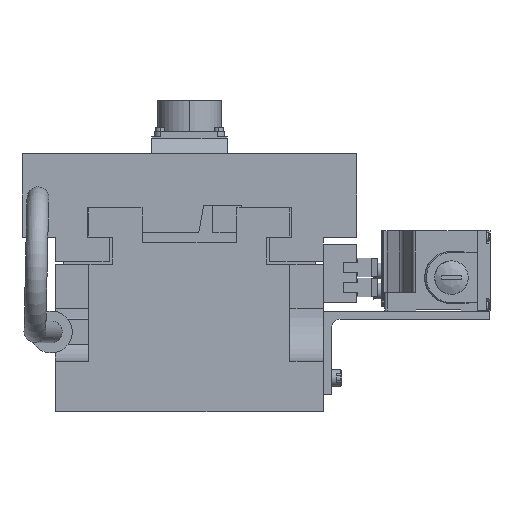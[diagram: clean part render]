
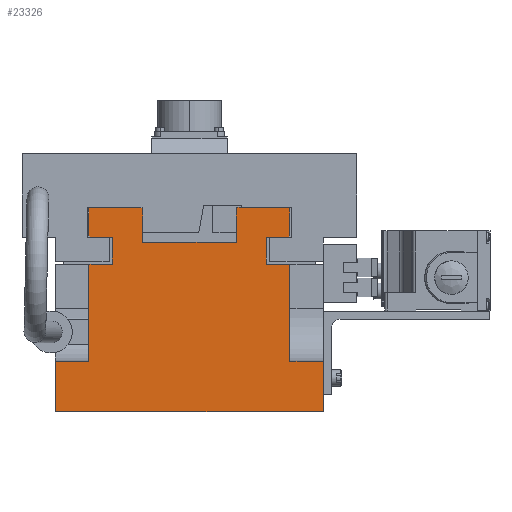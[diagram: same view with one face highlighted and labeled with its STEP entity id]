
A CAD part, front view. The second image highlights one B-rep face of the part: STEP entity #23326.
In plain terms, the highlighted planar face has unit normal (0, -1, 0).
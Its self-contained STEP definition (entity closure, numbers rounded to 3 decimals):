
#19888=CARTESIAN_POINT('',(40.605,-501.707,46.715));
#19889=VERTEX_POINT('',#19888);
#19896=CARTESIAN_POINT('',(40.605,-501.707,66.715));
#19897=VERTEX_POINT('',#19896);
#19898=CARTESIAN_POINT('',(40.605,-501.707,46.715));
#19899=DIRECTION('',(0.0,0.0,1.0));
#19900=VECTOR('',#19899,20.0);
#19901=LINE('',#19898,#19900);
#19902=EDGE_CURVE('',#19889,#19897,#19901,.T.);
#20224=CARTESIAN_POINT('',(-15.395,-501.707,66.715));
#20225=VERTEX_POINT('',#20224);
#20232=CARTESIAN_POINT('',(-15.395,-501.707,46.715));
#20233=VERTEX_POINT('',#20232);
#20234=CARTESIAN_POINT('',(-15.395,-501.707,66.715));
#20235=DIRECTION('',(0.0,0.0,-1.0));
#20236=VECTOR('',#20235,20.0);
#20237=LINE('',#20234,#20236);
#20238=EDGE_CURVE('',#20225,#20233,#20237,.T.);
#22440=CARTESIAN_POINT('',(-46.395,-501.707,67.715));
#22441=VERTEX_POINT('',#22440);
#22448=CARTESIAN_POINT('',(-16.395,-501.707,67.715));
#22449=VERTEX_POINT('',#22448);
#22450=CARTESIAN_POINT('',(-46.395,-501.707,67.715));
#22451=DIRECTION('',(1.0,0.0,0.0));
#22452=VECTOR('',#22451,30.);
#22453=LINE('',#22450,#22452);
#22454=EDGE_CURVE('',#22441,#22449,#22453,.T.);
#22896=CARTESIAN_POINT('',(-47.395,-501.707,-24.285));
#22897=VERTEX_POINT('',#22896);
#22904=CARTESIAN_POINT('',(-47.395,-501.707,33.715));
#22905=VERTEX_POINT('',#22904);
#22906=CARTESIAN_POINT('',(-47.395,-501.707,33.715));
#22907=DIRECTION('',(0.0,0.0,-1.0));
#22908=VECTOR('',#22907,58.);
#22909=LINE('',#22906,#22908);
#22910=EDGE_CURVE('',#22905,#22897,#22909,.T.);
#22941=CARTESIAN_POINT('',(-67.395,-501.707,-24.285));
#22942=VERTEX_POINT('',#22941);
#22949=CARTESIAN_POINT('',(-47.395,-501.707,-24.285));
#22950=DIRECTION('',(-1.0,0.0,0.0));
#22951=VECTOR('',#22950,20.);
#22952=LINE('',#22949,#22951);
#22953=EDGE_CURVE('',#22897,#22942,#22952,.T.);
#23016=CARTESIAN_POINT('',(72.605,-501.707,-24.285));
#23017=VERTEX_POINT('',#23016);
#23024=CARTESIAN_POINT('',(92.605,-501.707,-24.285));
#23025=VERTEX_POINT('',#23024);
#23026=CARTESIAN_POINT('',(92.605,-501.707,-24.285));
#23027=DIRECTION('',(-1.0,0.0,0.0));
#23028=VECTOR('',#23027,20.);
#23029=LINE('',#23026,#23028);
#23030=EDGE_CURVE('',#23025,#23017,#23029,.T.);
#23095=CARTESIAN_POINT('',(72.605,-501.707,33.715));
#23096=VERTEX_POINT('',#23095);
#23103=CARTESIAN_POINT('',(72.605,-501.707,-24.285));
#23104=DIRECTION('',(0.0,0.0,1.0));
#23105=VECTOR('',#23104,58.);
#23106=LINE('',#23103,#23105);
#23107=EDGE_CURVE('',#23017,#23096,#23106,.T.);
#23160=CARTESIAN_POINT('',(-67.395,-501.707,-54.285));
#23161=VERTEX_POINT('',#23160);
#23168=CARTESIAN_POINT('',(-67.395,-501.707,-54.285));
#23169=DIRECTION('',(0.0,0.0,1.0));
#23170=VECTOR('',#23169,30.);
#23171=LINE('',#23168,#23170);
#23172=EDGE_CURVE('',#23161,#22942,#23171,.T.);
#23177=CARTESIAN_POINT('',(12.605,-501.707,9.049));
#23178=DIRECTION('',(0.0,-1.0,0.0));
#23179=DIRECTION('',(1.0,0.0,0.0));
#23180=AXIS2_PLACEMENT_3D('',#23177,#23178,#23179);
#23181=PLANE('',#23180);
#23182=ORIENTED_EDGE('',*,*,#22910,.T.);
#23183=ORIENTED_EDGE('',*,*,#22953,.T.);
#23184=ORIENTED_EDGE('',*,*,#23172,.F.);
#23185=CARTESIAN_POINT('',(92.605,-501.707,-54.285));
#23186=VERTEX_POINT('',#23185);
#23187=CARTESIAN_POINT('',(92.605,-501.707,-54.285));
#23188=DIRECTION('',(-1.0,0.0,0.0));
#23189=VECTOR('',#23188,160.0);
#23190=LINE('',#23187,#23189);
#23191=EDGE_CURVE('',#23186,#23161,#23190,.T.);
#23192=ORIENTED_EDGE('',*,*,#23191,.F.);
#23193=CARTESIAN_POINT('',(92.605,-501.707,-24.285));
#23194=DIRECTION('',(0.0,0.0,-1.0));
#23195=VECTOR('',#23194,30.);
#23196=LINE('',#23193,#23195);
#23197=EDGE_CURVE('',#23025,#23186,#23196,.T.);
#23198=ORIENTED_EDGE('',*,*,#23197,.F.);
#23199=ORIENTED_EDGE('',*,*,#23030,.T.);
#23200=ORIENTED_EDGE('',*,*,#23107,.T.);
#23201=CARTESIAN_POINT('',(58.605,-501.707,33.715));
#23202=VERTEX_POINT('',#23201);
#23203=CARTESIAN_POINT('',(58.605,-501.707,33.715));
#23204=DIRECTION('',(1.0,0.0,0.0));
#23205=VECTOR('',#23204,14.);
#23206=LINE('',#23203,#23205);
#23207=EDGE_CURVE('',#23202,#23096,#23206,.T.);
#23208=ORIENTED_EDGE('',*,*,#23207,.F.);
#23209=CARTESIAN_POINT('',(58.605,-501.707,49.715));
#23210=VERTEX_POINT('',#23209);
#23211=CARTESIAN_POINT('',(58.605,-501.707,49.715));
#23212=DIRECTION('',(0.0,0.0,-1.0));
#23213=VECTOR('',#23212,16.);
#23214=LINE('',#23211,#23213);
#23215=EDGE_CURVE('',#23210,#23202,#23214,.T.);
#23216=ORIENTED_EDGE('',*,*,#23215,.F.);
#23217=CARTESIAN_POINT('',(71.605,-501.707,49.715));
#23218=VERTEX_POINT('',#23217);
#23219=CARTESIAN_POINT('',(71.605,-501.707,49.715));
#23220=DIRECTION('',(-1.0,0.0,0.0));
#23221=VECTOR('',#23220,13.);
#23222=LINE('',#23219,#23221);
#23223=EDGE_CURVE('',#23218,#23210,#23222,.T.);
#23224=ORIENTED_EDGE('',*,*,#23223,.F.);
#23225=CARTESIAN_POINT('',(72.605,-501.707,50.715));
#23226=VERTEX_POINT('',#23225);
#23227=CARTESIAN_POINT('',(72.605,-501.707,50.715));
#23228=DIRECTION('',(-0.707,0.0,-0.707));
#23229=VECTOR('',#23228,1.414);
#23230=LINE('',#23227,#23229);
#23231=EDGE_CURVE('',#23226,#23218,#23230,.T.);
#23232=ORIENTED_EDGE('',*,*,#23231,.F.);
#23233=CARTESIAN_POINT('',(72.605,-501.707,66.715));
#23234=VERTEX_POINT('',#23233);
#23235=CARTESIAN_POINT('',(72.605,-501.707,66.715));
#23236=DIRECTION('',(0.0,0.0,-1.0));
#23237=VECTOR('',#23236,16.);
#23238=LINE('',#23235,#23237);
#23239=EDGE_CURVE('',#23234,#23226,#23238,.T.);
#23240=ORIENTED_EDGE('',*,*,#23239,.F.);
#23241=CARTESIAN_POINT('',(71.605,-501.707,67.715));
#23242=VERTEX_POINT('',#23241);
#23243=CARTESIAN_POINT('',(71.605,-501.707,67.715));
#23244=DIRECTION('',(0.707,0.0,-0.707));
#23245=VECTOR('',#23244,1.414);
#23246=LINE('',#23243,#23245);
#23247=EDGE_CURVE('',#23242,#23234,#23246,.T.);
#23248=ORIENTED_EDGE('',*,*,#23247,.F.);
#23249=CARTESIAN_POINT('',(41.605,-501.707,67.715));
#23250=VERTEX_POINT('',#23249);
#23251=CARTESIAN_POINT('',(41.605,-501.707,67.715));
#23252=DIRECTION('',(1.0,0.0,0.0));
#23253=VECTOR('',#23252,30.0);
#23254=LINE('',#23251,#23253);
#23255=EDGE_CURVE('',#23250,#23242,#23254,.T.);
#23256=ORIENTED_EDGE('',*,*,#23255,.F.);
#23257=CARTESIAN_POINT('',(40.605,-501.707,66.715));
#23258=DIRECTION('',(0.707,0.0,0.707));
#23259=VECTOR('',#23258,1.414);
#23260=LINE('',#23257,#23259);
#23261=EDGE_CURVE('',#19897,#23250,#23260,.T.);
#23262=ORIENTED_EDGE('',*,*,#23261,.F.);
#23263=ORIENTED_EDGE('',*,*,#19902,.F.);
#23264=CARTESIAN_POINT('',(-15.395,-501.707,46.715));
#23265=DIRECTION('',(1.0,0.0,0.0));
#23266=VECTOR('',#23265,56.0);
#23267=LINE('',#23264,#23266);
#23268=EDGE_CURVE('',#20233,#19889,#23267,.T.);
#23269=ORIENTED_EDGE('',*,*,#23268,.F.);
#23270=ORIENTED_EDGE('',*,*,#20238,.F.);
#23271=CARTESIAN_POINT('',(-16.395,-501.707,67.715));
#23272=DIRECTION('',(0.707,0.0,-0.707));
#23273=VECTOR('',#23272,1.414);
#23274=LINE('',#23271,#23273);
#23275=EDGE_CURVE('',#22449,#20225,#23274,.T.);
#23276=ORIENTED_EDGE('',*,*,#23275,.F.);
#23277=ORIENTED_EDGE('',*,*,#22454,.F.);
#23278=CARTESIAN_POINT('',(-47.395,-501.707,66.715));
#23279=VERTEX_POINT('',#23278);
#23280=CARTESIAN_POINT('',(-47.395,-501.707,66.715));
#23281=DIRECTION('',(0.707,0.0,0.707));
#23282=VECTOR('',#23281,1.414);
#23283=LINE('',#23280,#23282);
#23284=EDGE_CURVE('',#23279,#22441,#23283,.T.);
#23285=ORIENTED_EDGE('',*,*,#23284,.F.);
#23286=CARTESIAN_POINT('',(-47.395,-501.707,50.715));
#23287=VERTEX_POINT('',#23286);
#23288=CARTESIAN_POINT('',(-47.395,-501.707,50.715));
#23289=DIRECTION('',(0.0,0.0,1.0));
#23290=VECTOR('',#23289,16.);
#23291=LINE('',#23288,#23290);
#23292=EDGE_CURVE('',#23287,#23279,#23291,.T.);
#23293=ORIENTED_EDGE('',*,*,#23292,.F.);
#23294=CARTESIAN_POINT('',(-46.395,-501.707,49.715));
#23295=VERTEX_POINT('',#23294);
#23296=CARTESIAN_POINT('',(-46.395,-501.707,49.715));
#23297=DIRECTION('',(-0.707,0.0,0.707));
#23298=VECTOR('',#23297,1.414);
#23299=LINE('',#23296,#23298);
#23300=EDGE_CURVE('',#23295,#23287,#23299,.T.);
#23301=ORIENTED_EDGE('',*,*,#23300,.F.);
#23302=CARTESIAN_POINT('',(-33.395,-501.707,49.715));
#23303=VERTEX_POINT('',#23302);
#23304=CARTESIAN_POINT('',(-33.395,-501.707,49.715));
#23305=DIRECTION('',(-1.0,0.0,0.0));
#23306=VECTOR('',#23305,13.);
#23307=LINE('',#23304,#23306);
#23308=EDGE_CURVE('',#23303,#23295,#23307,.T.);
#23309=ORIENTED_EDGE('',*,*,#23308,.F.);
#23310=CARTESIAN_POINT('',(-33.395,-501.707,33.715));
#23311=VERTEX_POINT('',#23310);
#23312=CARTESIAN_POINT('',(-33.395,-501.707,33.715));
#23313=DIRECTION('',(0.0,0.0,1.0));
#23314=VECTOR('',#23313,16.);
#23315=LINE('',#23312,#23314);
#23316=EDGE_CURVE('',#23311,#23303,#23315,.T.);
#23317=ORIENTED_EDGE('',*,*,#23316,.F.);
#23318=CARTESIAN_POINT('',(-47.395,-501.707,33.715));
#23319=DIRECTION('',(1.0,0.0,0.0));
#23320=VECTOR('',#23319,14.);
#23321=LINE('',#23318,#23320);
#23322=EDGE_CURVE('',#22905,#23311,#23321,.T.);
#23323=ORIENTED_EDGE('',*,*,#23322,.F.);
#23324=EDGE_LOOP('',(#23182,#23183,#23184,#23192,#23198,#23199,#23200,#23208,#23216,#23224,#23232,#23240,#23248,#23256,#23262,#23263,#23269,#23270,#23276,#23277,#23285,#23293,#23301,#23309,#23317,#23323));
#23325=FACE_OUTER_BOUND('',#23324,.T.);
#23326=ADVANCED_FACE('',(#23325),#23181,.T.);
